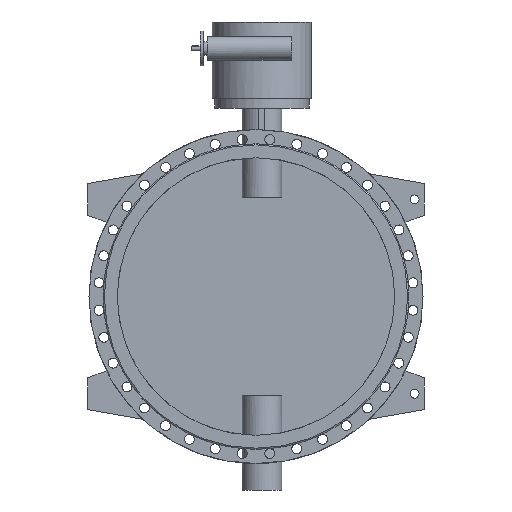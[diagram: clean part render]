
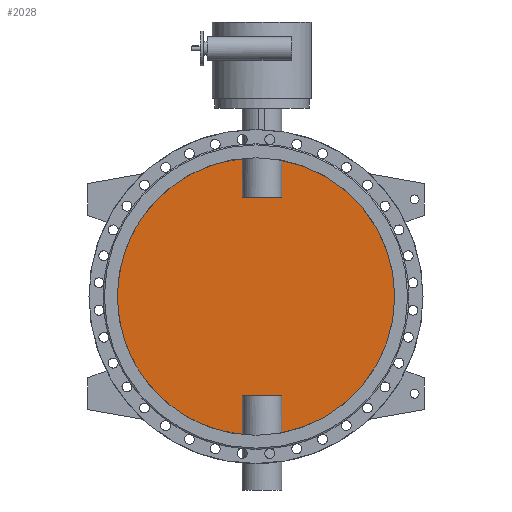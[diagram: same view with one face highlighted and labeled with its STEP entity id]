
A CAD part, front view. The second image highlights one B-rep face of the part: STEP entity #2028.
In plain terms, the highlighted planar face has unit normal (0, -1, 0).
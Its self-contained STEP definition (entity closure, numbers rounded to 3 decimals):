
#2028=ADVANCED_FACE('',(#4284),#4286,.F.);
#4284=FACE_BOUND('',#4285,.T.);
#4285=EDGE_LOOP('',(#5594,#5595,#5596,#5597,#5598,#5599,#5600,#5601));
#4286=PLANE('',#4287);
#4287=AXIS2_PLACEMENT_3D('',#4288,#4289,#4290);
#4288=CARTESIAN_POINT('',(0.,-5.,0.));
#4289=DIRECTION('',(0.,1.,0.));
#4290=DIRECTION('',(1.,0.,0.));
#5594=ORIENTED_EDGE('',*,*,#6249,.T.);
#5595=ORIENTED_EDGE('',*,*,#6255,.T.);
#5596=ORIENTED_EDGE('',*,*,#6256,.T.);
#5597=ORIENTED_EDGE('',*,*,#6257,.T.);
#5598=ORIENTED_EDGE('',*,*,#6251,.T.);
#5599=ORIENTED_EDGE('',*,*,#6258,.T.);
#5600=ORIENTED_EDGE('',*,*,#6259,.T.);
#5601=ORIENTED_EDGE('',*,*,#6260,.T.);
#6249=EDGE_CURVE('',#7325,#7326,#7327,.F.);
#6251=EDGE_CURVE('',#7330,#7328,#7331,.F.);
#6255=EDGE_CURVE('',#7326,#7337,#7338,.T.);
#6256=EDGE_CURVE('',#7337,#7339,#7340,.F.);
#6257=EDGE_CURVE('',#7339,#7330,#7341,.F.);
#6258=EDGE_CURVE('',#7328,#7342,#7343,.F.);
#6259=EDGE_CURVE('',#7342,#7344,#7345,.F.);
#6260=EDGE_CURVE('',#7344,#7325,#7346,.T.);
#7325=VERTEX_POINT('',#10872);
#7326=VERTEX_POINT('',#10873);
#7327=CIRCLE('',#10874,700.);
#7328=VERTEX_POINT('',#10878);
#7330=VERTEX_POINT('',#10940);
#7331=CIRCLE('',#10941,700.);
#7337=VERTEX_POINT('',#11080);
#7338=LINE('',#11081,#11082);
#7339=VERTEX_POINT('',#11084);
#7340=LINE('',#11085,#11086);
#7341=LINE('',#11088,#11089);
#7342=VERTEX_POINT('',#11091);
#7343=LINE('',#11092,#11093);
#7344=VERTEX_POINT('',#11095);
#7345=LINE('',#11096,#11097);
#7346=LINE('',#11099,#11100);
#10872=CARTESIAN_POINT('',(129.875,-5.,-687.846));
#10873=CARTESIAN_POINT('',(129.875,-5.,687.846));
#10874=AXIS2_PLACEMENT_3D('',#10875,#10876,#10877);
#10875=CARTESIAN_POINT('',(0.,-5.,0.));
#10876=DIRECTION('',(0.,1.,0.));
#10877=DIRECTION('',(0.186,0.,0.983));
#10878=CARTESIAN_POINT('',(-69.875,-5.,-696.504));
#10940=CARTESIAN_POINT('',(-69.875,-5.,696.504));
#10941=AXIS2_PLACEMENT_3D('',#10942,#10943,#10944);
#10942=CARTESIAN_POINT('',(0.,-5.,0.));
#10943=DIRECTION('',(0.,1.,0.));
#10944=DIRECTION('',(-0.1,0.,-0.995));
#11080=CARTESIAN_POINT('',(129.875,-5.,500.));
#11081=CARTESIAN_POINT('',(129.875,-5.,687.846));
#11082=VECTOR('',#11083,1.);
#11083=DIRECTION('',(0.,0.,-1.));
#11084=CARTESIAN_POINT('',(-69.875,-5.,500.));
#11085=CARTESIAN_POINT('',(-69.875,-5.,500.));
#11086=VECTOR('',#11087,1.);
#11087=DIRECTION('',(1.,0.,0.));
#11088=CARTESIAN_POINT('',(-69.875,-5.,696.504));
#11089=VECTOR('',#11090,1.);
#11090=DIRECTION('',(0.,0.,-1.));
#11091=CARTESIAN_POINT('',(-69.875,-5.,-500.));
#11092=CARTESIAN_POINT('',(-69.875,-5.,-500.));
#11093=VECTOR('',#11094,1.);
#11094=DIRECTION('',(0.,0.,-1.));
#11095=CARTESIAN_POINT('',(129.875,-5.,-500.));
#11096=CARTESIAN_POINT('',(129.875,-5.,-500.));
#11097=VECTOR('',#11098,1.);
#11098=DIRECTION('',(-1.,0.,0.));
#11099=CARTESIAN_POINT('',(129.875,-5.,-500.));
#11100=VECTOR('',#11101,1.);
#11101=DIRECTION('',(0.,0.,-1.));
